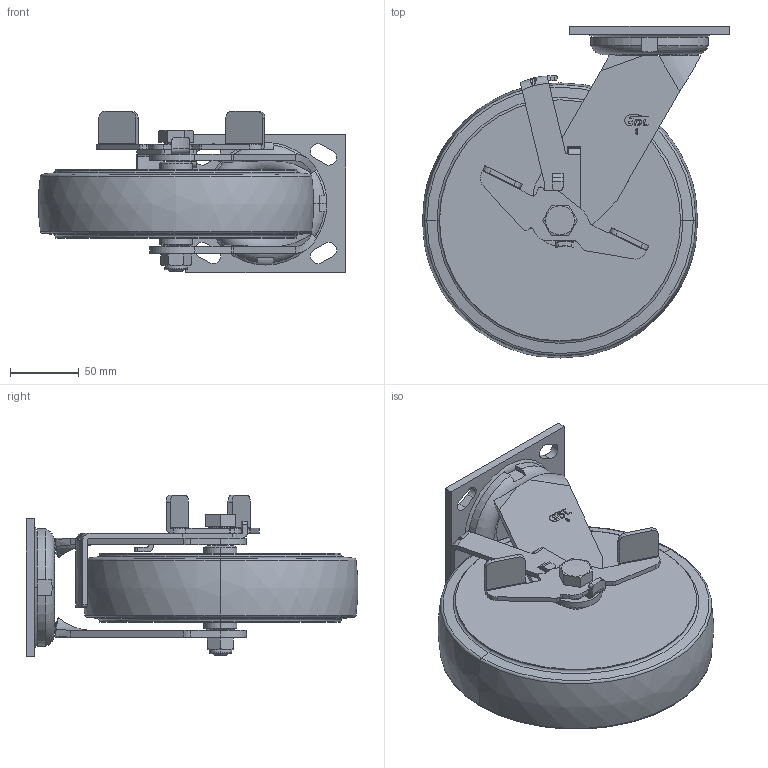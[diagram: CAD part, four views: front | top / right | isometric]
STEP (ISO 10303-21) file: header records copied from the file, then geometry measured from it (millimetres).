
FILE_DESCRIPTION((''),'2;1');
FILE_NAME('73128C-738-86_ASM','2020-12-01T',('lenovo'),(''),'PRO/ENGINEER BY PARAMETRIC TECHNOLOGY CORPORATION, 2010280','PRO/ENGINEER BY PARAMETRIC TECHNOLOGY CORPORATION, 2010280','');
FILE_SCHEMA(('CONFIG_CONTROL_DESIGN'));
Length unit declared in the file: millimetre
Products named in the file (10): 7310-201; 7310-211; 7318-353; 7318-311_ASM; 738-86; 700C-33; 7010-34; 708-15; 700-14; 73128C-738-86_ASM
Assembly tree (9 placements, depth 3):
  73128C-738-86_ASM
    7310-201
    7318-311_ASM
      7310-211
      7318-353
    738-86
    700C-33
    7010-34
    708-15
    700-14
Bounding box: 222.83 x 240.83 x 117 mm (x, y, z)
Volume: 1762862.7 mm3; surface area: 194608.4 mm2
Topology: 9 solids, 9 shells, 579 faces, 1508 edges, 975 vertices
Faces by surface type: plane 368, cylinder 121, torus 58, cone 22, bspline 10
Entity records: 18524 total; most frequent: CARTESIAN_POINT 3919, ORIENTED_EDGE 3016, DIRECTION 2963, EDGE_CURVE 1508, VECTOR 1073, LINE 1073, VERTEX_POINT 975, AXIS2_PLACEMENT_3D 945
